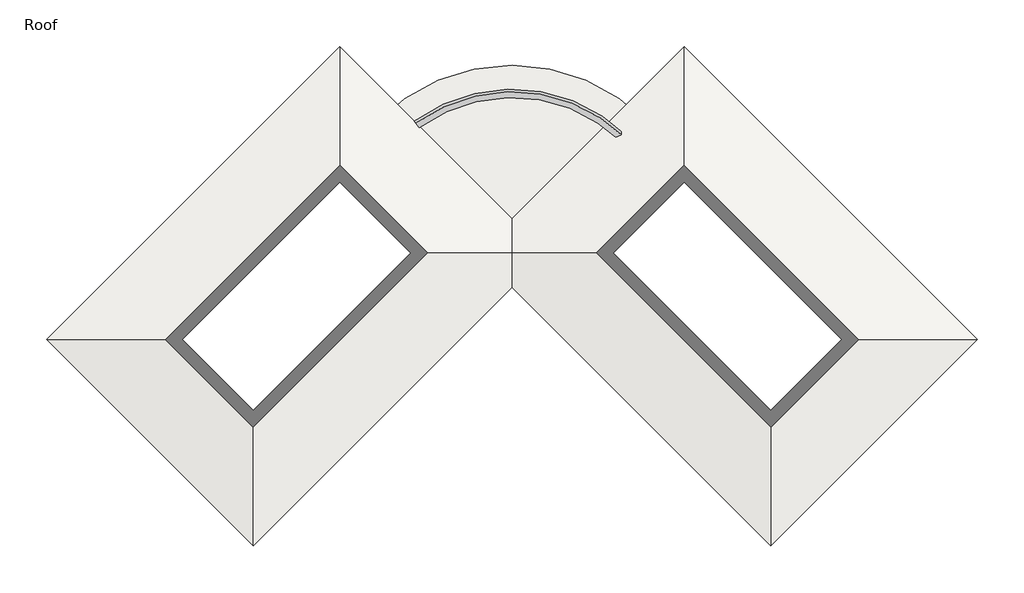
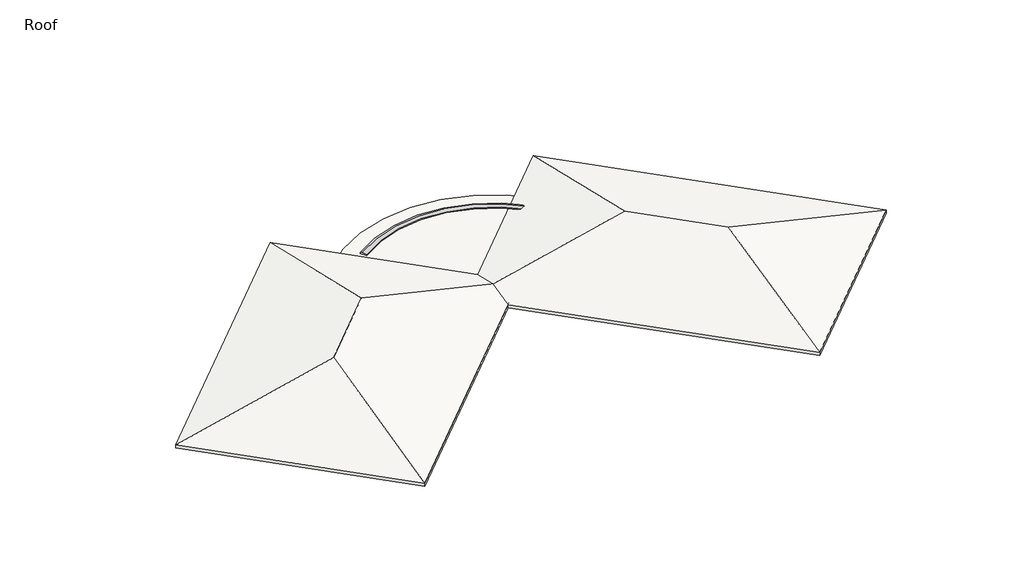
# One storey: 9 proxies, 3 roofs.
"""IFC4 building model written with IfcOpenShell, lengths in millimetres."""

import ifcopenshell
import ifcopenshell.guid

model = None  # the IFC model being written
_history = None  # IfcOwnerHistory: only IFC2X3 demands one
_inside = {}  # id of a spatial element -> (the spatial element, [elements in it])
_under = {}  # id of a project, library or spatial element -> (it, [spatial elements below it])
_declared = {}  # id of a project -> (the project, [libraries it declares])
_typed = {}  # id of a type object -> (the type object, [elements of that type])
_made_of = {}  # id of a material, layer set ... -> (it, [elements and type objects made of it])


def new_model(schema):
    """Start an empty IFC model of exactly this schema.

    Asked for "IFC4X3", IfcOpenShell would pick the latest addendum, in which some entities
    have other attributes; the version numbers below select the first issue.
    IFC2X3 requires an IfcOwnerHistory on every rooted entity: one is made here for all.
    """
    global model, _history
    if schema == "IFC4X3":
        model = ifcopenshell.file(schema_version=(4, 3, 0, 0))
    else:
        model = ifcopenshell.file(schema=schema)
    _inside.clear()
    _under.clear()
    _declared.clear()
    _typed.clear()
    _made_of.clear()
    _history = None
    if model.schema == "IFC2X3":
        org = make("IfcOrganization", Name="unknown")
        user = make(
            "IfcPersonAndOrganization",
            ThePerson=make("IfcPerson", FamilyName="unknown"),
            TheOrganization=org,
        )
        app = make(
            "IfcApplication",
            ApplicationDeveloper=org,
            Version="unknown",
            ApplicationFullName="unknown",
            ApplicationIdentifier="unknown",
        )
        _history = make(
            "IfcOwnerHistory",
            OwningUser=user,
            OwningApplication=app,
            ChangeAction="ADDED",
            CreationDate=0,
        )
    return model


def make(cls, **values):
    """One entity of the class cls with the attributes given. An attribute that is None is left unset."""
    return model.create_entity(
        cls, **{name: value for name, value in values.items() if value is not None}
    )


def rooted(cls, **values):
    """An entity with a GlobalId (a new one), such as an element, a storey or a relation."""
    return make(cls, GlobalId=ifcopenshell.guid.new(), OwnerHistory=_history, **values)


def si_unit(unit_type, name, prefix=None):
    """IfcSIUnit, for example si_unit("LENGTHUNIT", "METRE", prefix="MILLI")."""
    return make("IfcSIUnit", UnitType=unit_type, Prefix=prefix, Name=name)


def assignment(units):
    """IfcUnitAssignment: the units of a project."""
    return None if units is None else make("IfcUnitAssignment", Units=units)


def point(xyz):
    """IfcCartesianPoint."""
    return None if xyz is None else make("IfcCartesianPoint", Coordinates=xyz)


def direction(xyz):
    """IfcDirection."""
    return None if xyz is None else make("IfcDirection", DirectionRatios=xyz)


def frame(location, z_axis=None, x_axis=None):
    """IfcAxis2Placement3D, a coordinate frame: its origin and axes. An axis left out is left unset."""
    return make(
        "IfcAxis2Placement3D",
        Location=point(location),
        Axis=direction(z_axis),
        RefDirection=direction(x_axis),
    )


def frame_2d(location, x_axis=None):
    """IfcAxis2Placement2D, a coordinate frame in the plane: its origin and x axis."""
    return make(
        "IfcAxis2Placement2D", Location=point(location), RefDirection=direction(x_axis)
    )


def origin():
    """The frame at (0, 0, 0) with its axes left unset."""
    return frame((0.0, 0.0, 0.0))


def place(relative_to, where):
    """IfcLocalPlacement: puts the frame where relative to a parent placement (None: the world)."""
    return make(
        "IfcLocalPlacement", PlacementRelTo=relative_to, RelativePlacement=where
    )


def context(
    kind, dimensions, precision=None, world=None, true_north=None, identifier=None
):
    """IfcGeometricRepresentationContext, for example the 3D "Model" context."""
    return make(
        "IfcGeometricRepresentationContext",
        ContextIdentifier=identifier,
        ContextType=kind,
        CoordinateSpaceDimension=dimensions,
        Precision=precision,
        WorldCoordinateSystem=world,
        TrueNorth=true_north,
    )


def project(units=None, contexts=None):
    """IfcProject with its units and contexts."""
    return rooted(
        "IfcProject",
        Name="project",
        RepresentationContexts=contexts,
        UnitsInContext=assignment(units),
    )


def spatial(cls, under=None, at=None, **own):
    """A site, building, storey or space (cls), placed at a placement, below another one or the project."""
    s = rooted(cls, ObjectPlacement=at, **own)
    if under is not None:
        _under.setdefault(under.id(), (under, []))[1].append(s)
    return s


def polyline(points):
    """IfcPolyline through the points."""
    return make("IfcPolyline", Points=[point(p) for p in points])


def circle_curve(where, radius):
    """IfcCircle in the frame where."""
    return make("IfcCircle", Position=where, Radius=radius)


def trimmed(basis, trim1, trim2, sense, master):
    """IfcTrimmedCurve: the piece of a basis curve between two trims."""
    return make(
        "IfcTrimmedCurve",
        BasisCurve=basis,
        Trim1=trim1,
        Trim2=trim2,
        SenseAgreement=sense,
        MasterRepresentation=master,
    )


def segment(curve, same_sense, transition):
    """IfcCompositeCurveSegment."""
    return make(
        "IfcCompositeCurveSegment",
        Transition=transition,
        SameSense=same_sense,
        ParentCurve=curve,
    )


def composite_curve(segments, self_intersect=None):
    """IfcCompositeCurve: segments joined end to end."""
    return make("IfcCompositeCurve", Segments=segments, SelfIntersect=self_intersect)


def outline(outer, holes=None, kind="AREA"):
    """IfcArbitraryClosedProfileDef: a profile drawn as a closed curve; with holes, ...WithVoids."""
    if holes is None:
        return make("IfcArbitraryClosedProfileDef", ProfileType=kind, OuterCurve=outer)
    return make(
        "IfcArbitraryProfileDefWithVoids",
        ProfileType=kind,
        OuterCurve=outer,
        InnerCurves=holes,
    )


def extrude(swept, where, along, depth):
    """IfcExtrudedAreaSolid: the profile swept, set in the frame where, extruded along a direction by depth."""
    return make(
        "IfcExtrudedAreaSolid",
        SweptArea=swept,
        Position=where,
        ExtrudedDirection=direction(along),
        Depth=depth,
    )


def faces_of(points, faces, orient=None, outer=None):
    """IfcFace entities. A face is a list of loops; a loop is a list of indices into points, from 0.

    orient and outer hold one flag for each loop. By default every Orientation is true, the
    first loop of a face is its IfcFaceOuterBound and the others are IfcFaceBound.
    """
    made = []
    for i, loops in enumerate(faces):
        bounds = []
        for j, loop in enumerate(loops):
            is_outer = j == 0 if outer is None else outer[i][j]
            bounds.append(
                make(
                    "IfcFaceOuterBound" if is_outer else "IfcFaceBound",
                    Bound=make("IfcPolyLoop", Polygon=[points[k] for k in loop]),
                    Orientation=True if orient is None else orient[i][j],
                )
            )
        made.append(make("IfcFace", Bounds=bounds))
    return made


def faceted_brep(points, faces, orient=None, outer=None, voids=None):
    """IfcFacetedBrep: a solid bounded by flat faces; with voids (closed shells), ...WithVoids."""
    shared = [point(p) for p in points]
    hull = make("IfcClosedShell", CfsFaces=faces_of(shared, faces, orient, outer))
    if voids is None:
        return make("IfcFacetedBrep", Outer=hull)
    return make(
        "IfcFacetedBrepWithVoids",
        Outer=hull,
        Voids=[
            make(cls, CfsFaces=faces_of(shared, fs, o, b)) for cls, fs, o, b in voids
        ],
    )


def shape(context_of_items, identifier, shape_type, items):
    """IfcShapeRepresentation: the items that make up one representation, for example the "Body"."""
    return make(
        "IfcShapeRepresentation",
        ContextOfItems=context_of_items,
        RepresentationIdentifier=identifier,
        RepresentationType=shape_type,
        Items=items,
    )


def made_of(thing, what):
    """Note that an element or type object is made of a material, layer set ...; save() writes the relation."""
    if what is not None:
        _made_of.setdefault(what.id(), (what, []))[1].append(thing)
    return thing


def element(
    cls,
    number,
    at=None,
    inside=None,
    cuts=None,
    type_object=None,
    material=None,
    context=None,
    identifier="Body",
    shape_type=None,
    held_by="IfcProductDefinitionShape",
    body=None,
    shapes=None,
    **own,
):
    """One element of the class cls, such as IfcWall. Its Tag is "e" and its number.

    at: its placement. inside: the storey or other place that contains it. cuts: it is an
    opening in that element (IfcRelVoidsElement). A single representation is given by context,
    identifier, shape_type and body (its items); several are given by shapes. held_by: the class
    of the entity that holds the representations. save() writes the other relations.
    """
    e = rooted(cls, Tag="e%d" % number, ObjectPlacement=at, **own)
    if body is not None:
        shapes = [shape(context, identifier, shape_type, body)]
    if shapes is not None:
        e.Representation = make(held_by, Representations=shapes)
    if inside is not None:
        _inside.setdefault(inside.id(), (inside, []))[1].append(e)
    if cuts is not None:
        rooted(
            "IfcRelVoidsElement", RelatingBuildingElement=cuts, RelatedOpeningElement=e
        )
    if type_object is not None:
        _typed.setdefault(type_object.id(), (type_object, []))[1].append(e)
    return made_of(e, material)


def aggregate(whole, parts):
    """IfcRelAggregates: a whole, such as a stair, and the parts it consists of."""
    return rooted("IfcRelAggregates", RelatingObject=whole, RelatedObjects=parts)


def save(model, path):
    """Write the relations noted so far, then the file.

    IfcRelAggregates (storeys below a building ...), IfcRelContainedInSpatialStructure (elements
    in a storey), IfcRelDefinesByType, IfcRelAssociatesMaterial and IfcRelDeclares: one each for
    every whole, place, type object, material and project.
    """
    for whole, parts in _under.values():
        aggregate(whole, parts)
    for where, things in _inside.values():
        rooted(
            "IfcRelContainedInSpatialStructure",
            RelatedElements=things,
            RelatingStructure=where,
        )
    for kind, things in _typed.values():
        rooted("IfcRelDefinesByType", RelatedObjects=things, RelatingType=kind)
    for what, things in _made_of.values():
        rooted("IfcRelAssociatesMaterial", RelatedObjects=things, RelatingMaterial=what)
    for by, libraries in _declared.values():
        rooted("IfcRelDeclares", RelatingContext=by, RelatedDefinitions=libraries)
    model.write(path)


def plane_surface(at):
    """IfcPlane: the flat surface through the origin of the frame at, square to its z axis."""
    return make("IfcPlane", Position=at)


def cylinder_surface(at, radius):
    """IfcCylindricalSurface: all points at the distance radius from the z axis of the frame at."""
    return make("IfcCylindricalSurface", Position=at, Radius=radius)


def revolved_surface(curve, axis_point, axis_direction):
    """IfcSurfaceOfRevolution: the curve turned about the line through axis_point along axis_direction."""
    return make(
        "IfcSurfaceOfRevolution",
        SweptCurve=make("IfcArbitraryOpenProfileDef", ProfileType="CURVE", Curve=curve),
        AxisPosition=make("IfcAxis1Placement", Location=point(axis_point), Axis=direction(axis_direction)),
    )


def advanced_brep(points, edges, surfaces, faces):
    """IfcAdvancedBrep: a solid bounded by faces that lie on surfaces and meet in shared edges.

    An edge is (start, end): straight between two places in points (the first is 0);
    or (start, end, curve); or (start, end, curve, False) where it runs against its curve.
    A face is (place in surfaces, loops), or (place, loops, False) where it looks against
    its surface's normal. A loop lists edges by number (the first is 1), with a minus sign
    where the edge is run from its end to its start. The first loop is the outer one.
    """
    corners = [point(p) for p in points]
    vertices = [make("IfcVertexPoint", VertexGeometry=c) for c in corners]
    made = []
    for start, end, *more in edges:
        made.append(
            make(
                "IfcEdgeCurve",
                EdgeStart=vertices[start],
                EdgeEnd=vertices[end],
                EdgeGeometry=more[0] if more else make("IfcPolyline", Points=[corners[start], corners[end]]),
                SameSense=more[1] if len(more) > 1 else True,
            )
        )
    hull = []
    for where, loops, *sense in faces:
        bounds = []
        for j, loop in enumerate(loops):
            ring = [make("IfcOrientedEdge", EdgeElement=made[abs(k) - 1], Orientation=k > 0) for k in loop]
            bounds.append(
                make(
                    "IfcFaceOuterBound" if j == 0 else "IfcFaceBound",
                    Bound=make("IfcEdgeLoop", EdgeList=ring),
                    Orientation=True,
                )
            )
        hull.append(make("IfcAdvancedFace", Bounds=bounds, FaceSurface=surfaces[where], SameSense=sense[0] if sense else True))
    return make("IfcAdvancedBrep", Outer=make("IfcClosedShell", CfsFaces=hull))


model = new_model("IFC4")

# Units and contexts
model_context = context("Model", 3, world=origin())
ifc_project = project(units=[si_unit("LENGTHUNIT", "METRE", prefix="MILLI")], contexts=[model_context])

# Site, building, storey
site = spatial("IfcSite", under=ifc_project)
building = spatial("IfcBuilding", under=site)
storey = spatial("IfcBuildingStorey", under=building, Name="Roof", Elevation=4572.0)

# Proxies
placement = place(None, origin())
element("IfcBuildingElementProxy", 1, Name="Wall Sweeps", at=placement, inside=storey, context=model_context, shape_type="Brep", body=[
    faceted_brep([(4057.9485283, 9339.6949534, 4635.5), (3860.3828937, 9537.2605881, 4673.6), (3770.5803325, 9627.0631493, 4635.5), (3770.5803325, 9627.0631493, 4572.0), (4057.9485283, 9339.6949534, 4572.0), (5753.0175119, 11034.763937, 4635.5), (5753.0175119, 11034.763937, 4572.0), (5753.0175119, 11609.5003287, 4572.0), (5753.0175119, 11609.5003287, 4635.5), (5753.0175119, 11429.8952063, 4673.6)], [[[0, 1, 2, 3, 4]], [[5, 6, 7, 8, 9]], [[1, 0, 5, 9]], [[2, 1, 9, 8]], [[3, 2, 8, 7]], [[4, 3, 7, 6]], [[0, 4, 6, 5]]]),
])
element("IfcBuildingElementProxy", 2, Name="Wall Sweeps", at=placement, inside=storey, context=model_context, shape_type="Brep", body=[
    faceted_brep([(5753.0175119, 11034.763937, 4635.5), (5753.0175119, 11429.8952063, 4673.6), (5753.0175119, 11609.5003287, 4635.5), (5753.0175119, 11609.5003287, 4572.0), (5753.0175119, 11034.763937, 4572.0), (18145.770959, -1357.9895101, 4635.5), (18145.770959, -1357.9895101, 4572.0), (18720.5073507, -1357.9895101, 4572.0), (18720.5073507, -1357.9895101, 4635.5), (18540.9022283, -1357.9895101, 4673.6)], [[[0, 1, 2, 3, 4]], [[5, 6, 7, 8, 9]], [[1, 0, 5, 9]], [[2, 1, 9, 8]], [[3, 2, 8, 7]], [[4, 3, 7, 6]], [[0, 4, 6, 5]]]),
])
element("IfcBuildingElementProxy", 3, Name="Wall Sweeps", at=placement, inside=storey, context=model_context, shape_type="Brep", body=[
    faceted_brep([(18145.770959, -1357.9895101, 4635.5), (18540.9022283, -1357.9895101, 4673.6), (18720.5073507, -1357.9895101, 4635.5), (18720.5073507, -1357.9895101, 4572.0), (18145.770959, -1357.9895101, 4572.0), (10063.54045, -9440.2200191, 4635.5), (10063.54045, -9440.2200191, 4572.0), (10063.54045, -10014.9564108, 4572.0), (10063.54045, -10014.9564108, 4635.5), (10063.54045, -9835.3512884, 4673.6)], [[[0, 1, 2, 3, 4]], [[5, 6, 7, 8, 9]], [[1, 0, 5, 9]], [[2, 1, 9, 8]], [[3, 2, 8, 7]], [[4, 3, 7, 6]], [[0, 4, 6, 5]]]),
])
element("IfcBuildingElementProxy", 4, Name="Wall Sweeps", at=placement, inside=storey, context=model_context, shape_type="Brep", body=[
    faceted_brep([(10063.54045, -9440.2200191, 4635.5), (10063.54045, -9835.3512884, 4673.6), (10063.54045, -10014.9564108, 4635.5), (10063.54045, -10014.9564108, 4572.0), (10063.54045, -9440.2200191, 4572.0), (-1736.5160931, 2359.836524, 4635.5), (-1736.5160931, 2359.836524, 4572.0), (-1756.7216693, 2339.6309478, 4572.0), (-2005.9237767, 2090.4288404, 4572.0), (-2023.8842889, 2072.4683282, 4572.0), (-2023.8842889, 2072.4683282, 4635.5), (-1934.0817277, 2162.2708894, 4673.6)], [[[0, 1, 2, 3, 4]], [[5, 6, 7, 8, 9, 10, 11]], [[1, 0, 5, 11]], [[2, 1, 11, 10]], [[3, 2, 10, 9]], [[4, 3, 9, 8, 7, 6]], [[0, 4, 6, 5]]]),
    faceted_brep([(-2598.6206807, 3221.9411117, 4635.5), (-2796.1863153, 3024.375477, 4673.6), (-2885.9888765, 2934.5729158, 4635.5), (-2885.9888765, 2934.5729158, 4572.0), (-2598.6206807, 3221.9411117, 4572.0), (-2847.822788, 3471.143219, 4635.5), (-2847.822788, 3471.143219, 4572.0), (-3135.1909839, 3183.7750231, 4572.0), (-3135.1909839, 3183.7750231, 4635.5), (-3045.3884227, 3273.5775843, 4673.6)], [[[0, 1, 2, 3, 4]], [[5, 6, 7, 8, 9]], [[1, 0, 5, 9]], [[2, 1, 9, 8]], [[3, 2, 8, 7]], [[4, 3, 7, 6]], [[0, 4, 6, 5]]]),
])
element("IfcBuildingElementProxy", 5, Name="Wall Sweeps", at=placement, inside=storey, context=model_context, shape_type="Brep", body=[
    faceted_brep([(-3137.4360479, 3221.9411117, 4635.5), (-2939.8704133, 3024.375477, 4673.6), (-2850.0678521, 2934.5729158, 4635.5), (-2850.0678521, 2934.5729158, 4572.0), (-2868.0283643, 2952.533428, 4572.0), (-3117.2304717, 3201.7355354, 4572.0), (-3137.4360479, 3221.9411117, 4572.0), (-15799.5971786, -9440.2200191, 4635.5), (-15799.5971786, -9440.2200191, 4572.0), (-15799.5971786, -10014.9564108, 4572.0), (-15799.5971786, -10014.9564108, 4635.5), (-15799.5971786, -9835.3512884, 4673.6)], [[[0, 1, 2, 3, 4, 5, 6]], [[7, 8, 9, 10, 11]], [[1, 0, 7, 11]], [[2, 1, 11, 10]], [[3, 2, 10, 9]], [[6, 5, 4, 3, 9, 8]], [[0, 6, 8, 7]]]),
])
element("IfcBuildingElementProxy", 6, Name="Wall Sweeps", at=placement, inside=storey, context=model_context, shape_type="Brep", body=[
    faceted_brep([(-15799.5971786, -9440.2200191, 4635.5), (-15799.5971786, -9835.3512884, 4673.6), (-15799.5971786, -10014.9564108, 4635.5), (-15799.5971786, -10014.9564108, 4572.0), (-15799.5971786, -9440.2200191, 4572.0), (-23881.8276876, -1357.9895101, 4635.5), (-23881.8276876, -1357.9895101, 4572.0), (-24456.5640794, -1357.9895101, 4572.0), (-24456.5640794, -1357.9895101, 4635.5), (-24276.9589569, -1357.9895101, 4673.6)], [[[0, 1, 2, 3, 4]], [[5, 6, 7, 8, 9]], [[1, 0, 5, 9]], [[2, 1, 9, 8]], [[3, 2, 8, 7]], [[4, 3, 7, 6]], [[0, 4, 6, 5]]]),
])
element("IfcBuildingElementProxy", 7, Name="Wall Sweeps", at=placement, inside=storey, context=model_context, shape_type="Brep", body=[
    faceted_brep([(-23881.8276876, -1357.9895101, 4635.5), (-24276.9589569, -1357.9895101, 4673.6), (-24456.5640794, -1357.9895101, 4635.5), (-24456.5640794, -1357.9895101, 4572.0), (-23881.8276876, -1357.9895101, 4572.0), (-11489.0742405, 11034.763937, 4635.5), (-11489.0742405, 11034.763937, 4572.0), (-11489.0742405, 11609.5003287, 4572.0), (-11489.0742405, 11609.5003287, 4635.5), (-11489.0742405, 11429.8952063, 4673.6)], [[[0, 1, 2, 3, 4]], [[5, 6, 7, 8, 9]], [[1, 0, 5, 9]], [[2, 1, 9, 8]], [[3, 2, 8, 7]], [[4, 3, 7, 6]], [[0, 4, 6, 5]]]),
])
element("IfcBuildingElementProxy", 8, Name="Wall Sweeps", at=placement, inside=storey, context=model_context, shape_type="Brep", body=[
    faceted_brep([(-11489.0742405, 11034.763937, 4635.5), (-11489.0742405, 11429.8952063, 4673.6), (-11489.0742405, 11609.5003287, 4635.5), (-11489.0742405, 11609.5003287, 4572.0), (-11489.0742405, 11034.763937, 4572.0), (-8931.8939077, 8477.5836041, 4635.5), (-8931.8939077, 8477.5836041, 4572.0), (-8911.6883314, 8497.7891804, 4572.0), (-8662.486224, 8746.9912878, 4572.0), (-8644.5257118, 8764.9518, 4572.0), (-8644.5257118, 8764.9518, 4635.5), (-8734.328273, 8675.1492388, 4673.6), (-8836.2976328, 8573.179879, 4653.9354839), (-8911.6883314, 8497.7891804, 4639.3965909)], [[[0, 1, 2, 3, 4]], [[5, 6, 7, 8, 9, 10, 11, 12, 13]], [[1, 0, 5, 13, 12, 11]], [[2, 1, 11, 10]], [[3, 2, 10, 9]], [[4, 3, 9, 8, 7, 6]], [[0, 4, 6, 5]]]),
])
element("IfcBuildingElementProxy", 9, Name="Wall Sweeps", at=placement, inside=storey, context=model_context, shape_type="AdvancedBrep", body=[
    advanced_brep(
    [(-7507.26102, 9233.8641208, 4635.5), (-7672.4116971, 9459.2296325, 4673.6), (-7747.4801867, 9561.6685015, 4635.5), (-7747.4801867, 9561.6685015, 4572.0), (-7507.26102, 9233.8641208, 4572.0), (2658.1675575, 8476.4427105, 4635.5), (2658.1675575, 8476.4427105, 4572.0), (2944.3136246, 8765.0278596, 4572.0), (2944.3136246, 8765.0278596, 4635.5), (2854.8929786, 8674.8450005, 4673.6)],
    [
        (0, 1),
        (1, 2),
        (2, 3),
        (3, 4),
        (4, 0),
        (5, 6),
        (6, 7),
        (7, 8),
        (8, 9),
        (9, 5),
        (9, 1, circle_curve(frame((-2868.0283643, 2903.1420194, 4673.6), z_axis=(0.0, 0.0, 1.0), x_axis=(-0.591090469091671, 0.8066052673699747, 0.0)), 8128.0)),
        (0, 5, circle_curve(frame((-2868.0283643, 2903.1420194, 4635.5), z_axis=(0.0, 0.0, -1.0), x_axis=(-0.591090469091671, 0.8066052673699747, 0.0)), 7848.6)),
        (8, 2, circle_curve(frame((-2868.0283643, 2903.1420194, 4635.5), z_axis=(0.0, 0.0, 1.0), x_axis=(-0.591090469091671, 0.8066052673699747, 0.0)), 8255.0)),
        (7, 3, circle_curve(frame((-2868.0283643, 2903.1420194, 4572.0), z_axis=(0.0, 0.0, 1.0), x_axis=(-0.591090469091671, 0.8066052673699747, 0.0)), 8255.0)),
        (6, 4, circle_curve(frame((-2868.0283643, 2903.1420194, 4572.0), z_axis=(0.0, 0.0, 1.0), x_axis=(-0.591090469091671, 0.8066052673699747, 0.0)), 7848.6)),
    ],
    [
        plane_surface(frame((-2868.0283643, 2903.1420194, 4572.0), z_axis=(-0.8066052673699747, -0.591090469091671, 0.0), x_axis=(-0.591090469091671, 0.8066052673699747, 0.0))),
        plane_surface(frame((-2868.0283643, 2903.1420194, 4572.0), z_axis=(0.7101012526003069, -0.7040995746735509, 0.0), x_axis=(0.7040995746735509, 0.7101012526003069, 0.0))),
        revolved_surface(polyline([(-7507.26102, 9233.8641208, 4635.5), (-7672.4116971, 9459.2296325, 4673.6)]), (-2868.0283643, 2903.1420194, 4572.0), (0.0, 0.0, -1.0)),
        revolved_surface(polyline([(-7672.4116971, 9459.2296325, 4673.6), (-7747.4801867, 9561.6685015, 4635.5)]), (-2868.0283643, 2903.1420194, 4572.0), (0.0, 0.0, -1.0)),
        cylinder_surface(frame((-2868.0283643, 2903.1420194, 4572.0), z_axis=(0.0, 0.0, -1.0), x_axis=(-0.591090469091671, 0.8066052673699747, 0.0)), 8255.0),
        plane_surface(frame((-2868.0283643, 2903.1420194, 4572.0), z_axis=(0.0, 0.0, -1.0), x_axis=(-0.591090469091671, 0.8066052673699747, 0.0))),
        revolved_surface(polyline([(-7507.261020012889, 9233.864120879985, 4572.0), (-7507.261020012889, 9233.864120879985, 4635.5)]), (-2868.0283643, 2903.1420194, 4572.0), (0.0, 0.0, -1.0)),
    ],
    [
        (0, [[1, 2, 3, 4, 5]]),
        (1, [[6, 7, 8, 9, 10]]),
        (2, [[11, -1, 12, -10]]),
        (3, [[13, -2, -11, -9]]),
        (4, [[14, -3, -13, -8]]),
        (5, [[15, -4, -14, -7]]),
        (6, [[-12, -5, -15, -6]]),
    ],
),
])

# Roofs
element("IfcRoof", 10, ObjectType="Insulation on Metal Deck - EPDM", at=placement, inside=storey, context=model_context, shape_type="Brep", body=[
    faceted_brep([(-11489.0742405, 13297.7884795, 4165.6), (-11489.0742405, 2952.533428, 6604.0), (-15799.5971786, -1357.9895101, 6604.0), (-26144.8522301, -1357.9895101, 4165.6), (-15799.5971786, -11703.2445616, 4165.6), (-1143.8191891, 2952.533428, 4165.6), (-11489.0742405, 13297.7884795, 4373.0981191), (-26144.8522301, -1357.9895101, 4373.0981191), (-15799.5971786, -1357.9895101, 6811.4981191), (-11489.0742405, 2952.533428, 6811.4981191), (-15799.5971786, -11703.2445616, 4373.0981191), (-1143.8191891, 2952.533428, 4373.0981191)], [[[0, 1, 2, 3]], [[3, 2, 4]], [[4, 2, 1, 5]], [[1, 0, 5]], [[6, 7, 8, 9]], [[7, 10, 8]], [[10, 11, 9, 8]], [[6, 9, 11]], [[3, 7, 6, 0]], [[4, 10, 7, 3]], [[5, 11, 10, 4]], [[0, 6, 11, 5]]]),
])
element("IfcRoof", 11, ObjectType="Insulation on Metal Deck - EPDM", at=placement, inside=storey, context=model_context, shape_type="SweptSolid", body=[
    extrude(outline(composite_curve([segment(trimmed(circle_curve(frame_2d((-2868.0283643, 2903.1420194)), 9448.8), [point((-9665.5266036, 9466.2083094))], [point((3929.469875, 9466.2083094))], False, "CARTESIAN"), True, "CONTINUOUS"), segment(polyline([(3929.469875, 9466.2083094), (-2868.0283643, 3201.7355354), (-9665.5266036, 9466.2083094)]), True, "CONTINUOUS")], self_intersect=False)), frame((0.0, 0.0, 4165.6), z_axis=(0.0, 0.0, 1.0), x_axis=(1.0, 0.0, 0.0)), (0.0, 0.0, 1.0), 196.85),
])
element("IfcRoof", 12, ObjectType="Insulation on Metal Deck - EPDM", at=placement, inside=storey, context=model_context, shape_type="Brep", body=[
    faceted_brep([(5753.0175119, 2952.533428, 6604.0), (5753.0175119, 13297.7884795, 4165.6), (20408.7955015, -1357.9895101, 4165.6), (10063.54045, -1357.9895101, 6604.0), (10063.54045, -11703.2445616, 4165.6), (-4592.2375396, 2952.533428, 4165.6), (5753.0175119, 13297.7884795, 4373.0981191), (5753.0175119, 2952.533428, 6811.4981191), (10063.54045, -1357.9895101, 6811.4981191), (20408.7955015, -1357.9895101, 4373.0981191), (10063.54045, -11703.2445616, 4373.0981191), (-4592.2375396, 2952.533428, 4373.0981191)], [[[0, 1, 2, 3]], [[4, 3, 2]], [[5, 0, 3, 4]], [[1, 0, 5]], [[6, 7, 8, 9]], [[10, 9, 8]], [[11, 10, 8, 7]], [[6, 11, 7]], [[1, 6, 9, 2]], [[2, 9, 10, 4]], [[4, 10, 11, 5]], [[5, 11, 6, 1]]]),
])

save(model, "model.ifc")
